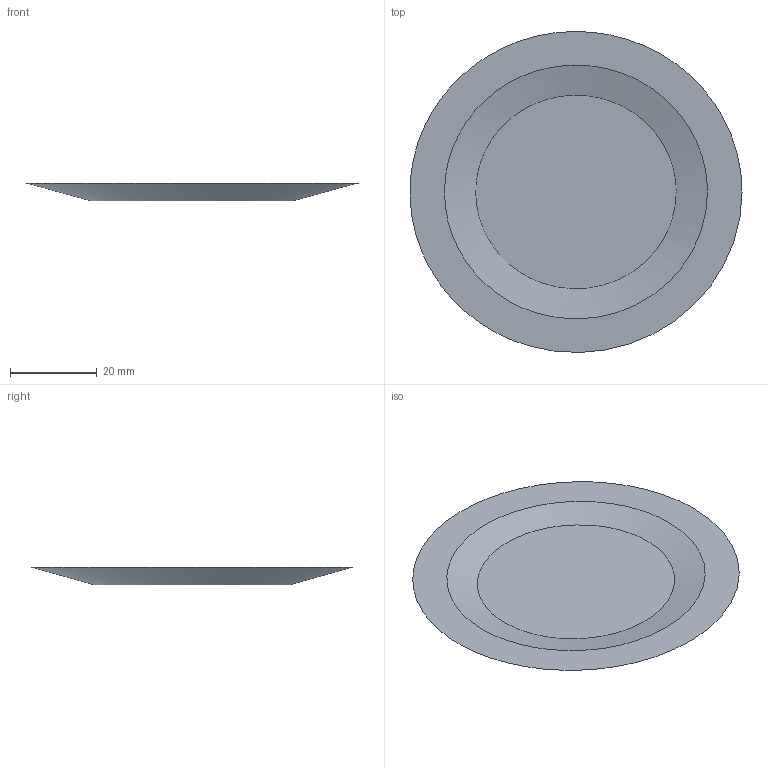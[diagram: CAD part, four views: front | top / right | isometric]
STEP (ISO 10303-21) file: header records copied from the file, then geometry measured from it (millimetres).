
FILE_DESCRIPTION(('FreeCAD Model'),'2;1');
FILE_NAME('Open CASCADE Shape Model','2026-11-20T08:25:34',('FreeCAD'),( 'FreeCAD'),'Open CASCADE STEP processor 7.8','FreeCAD','Unknown');
FILE_SCHEMA(('AUTOMOTIVE_DESIGN { 1 0 10303 214 1 1 1 1 }'));
Length unit declared in the file: millimetre
Products named in the file (1): Open CASCADE STEP translator 7.8 13
Bounding box: 76.57 x 74.02 x 4.15 mm (x, y, z)
Volume: 9099 mm3; surface area: 9067.9 mm2
Topology: 1 solids, 1 shells, 5 faces, 6 edges, 4 vertices
Faces by surface type: plane 3, bspline 2
Entity records: 777 total; most frequent: CARTESIAN_POINT 705, ORIENTED_EDGE 12, DIRECTION 8, FACE_BOUND 6, EDGE_LOOP 6, EDGE_CURVE 6, ADVANCED_FACE 5, AXIS2_PLACEMENT_3D 4
